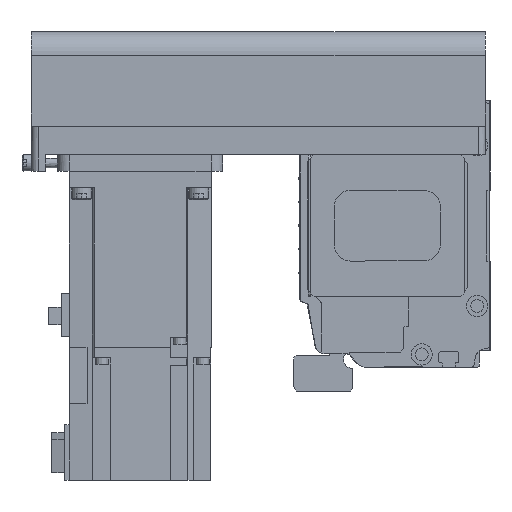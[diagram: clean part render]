
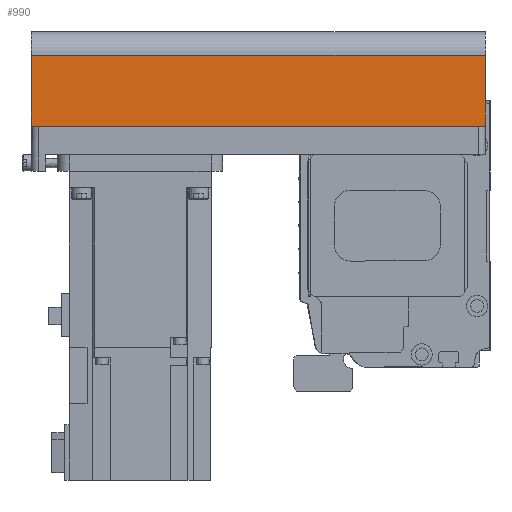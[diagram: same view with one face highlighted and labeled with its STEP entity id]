
A CAD part, left-side view. The second image highlights one B-rep face of the part: STEP entity #990.
In plain terms, the highlighted planar face has unit normal (-1, 0, 0) as drawn and (0, 1, 0) by its records, which use the part's own axes.
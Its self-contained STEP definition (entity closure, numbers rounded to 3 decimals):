
#990 = ADVANCED_FACE( '', ( #2630 ), #2631, .T. );
#2630 = FACE_OUTER_BOUND( '', #5190, .T. );
#2631 = PLANE( '', #5191 );
#5190 = EDGE_LOOP( '', ( #7913, #7914, #7915, #7916 ) );
#5191 = AXIS2_PLACEMENT_3D( '', #7917, #7918, #7919 );
#7913 = ORIENTED_EDGE( '', *, *, #14465, .F. );
#7914 = ORIENTED_EDGE( '', *, *, #14466, .F. );
#7915 = ORIENTED_EDGE( '', *, *, #14467, .T. );
#7916 = ORIENTED_EDGE( '', *, *, #14468, .T. );
#7917 = CARTESIAN_POINT( '', ( -192., 40., -42. ) );
#7918 = DIRECTION( '', ( 0., 1., 0. ) );
#7919 = DIRECTION( '', ( 0., 0., 1. ) );
#14465 = EDGE_CURVE( '', #17175, #17176, #17177, .T. );
#14466 = EDGE_CURVE( '', #17178, #17175, #17179, .T. );
#14467 = EDGE_CURVE( '', #17178, #17180, #17181, .T. );
#14468 = EDGE_CURVE( '', #17180, #17176, #17182, .T. );
#17175 = VERTEX_POINT( '', #21070 );
#17176 = VERTEX_POINT( '', #21071 );
#17177 = LINE( '', #21072, #21073 );
#17178 = VERTEX_POINT( '', #21074 );
#17179 = LINE( '', #21075, #21076 );
#17180 = VERTEX_POINT( '', #21077 );
#17181 = LINE( '', #21078, #21079 );
#17182 = LINE( '', #21080, #21081 );
#21070 = CARTESIAN_POINT( '', ( 0., 40., -42. ) );
#21071 = CARTESIAN_POINT( '', ( 0., 40., -12.1 ) );
#21072 = CARTESIAN_POINT( '', ( 0., 40., -42. ) );
#21073 = VECTOR( '', #25913, 1000. );
#21074 = CARTESIAN_POINT( '', ( -192., 40., -42. ) );
#21075 = CARTESIAN_POINT( '', ( -192., 40., -42. ) );
#21076 = VECTOR( '', #25914, 1000. );
#21077 = CARTESIAN_POINT( '', ( -192., 40., -12.1 ) );
#21078 = CARTESIAN_POINT( '', ( -192., 40., -42. ) );
#21079 = VECTOR( '', #25915, 1000. );
#21080 = CARTESIAN_POINT( '', ( -192., 40., -12.1 ) );
#21081 = VECTOR( '', #25916, 1000. );
#25913 = DIRECTION( '', ( 0., 0., 1. ) );
#25914 = DIRECTION( '', ( 1., 0., 0. ) );
#25915 = DIRECTION( '', ( 0., 0., 1. ) );
#25916 = DIRECTION( '', ( 1., 0., 0. ) );
